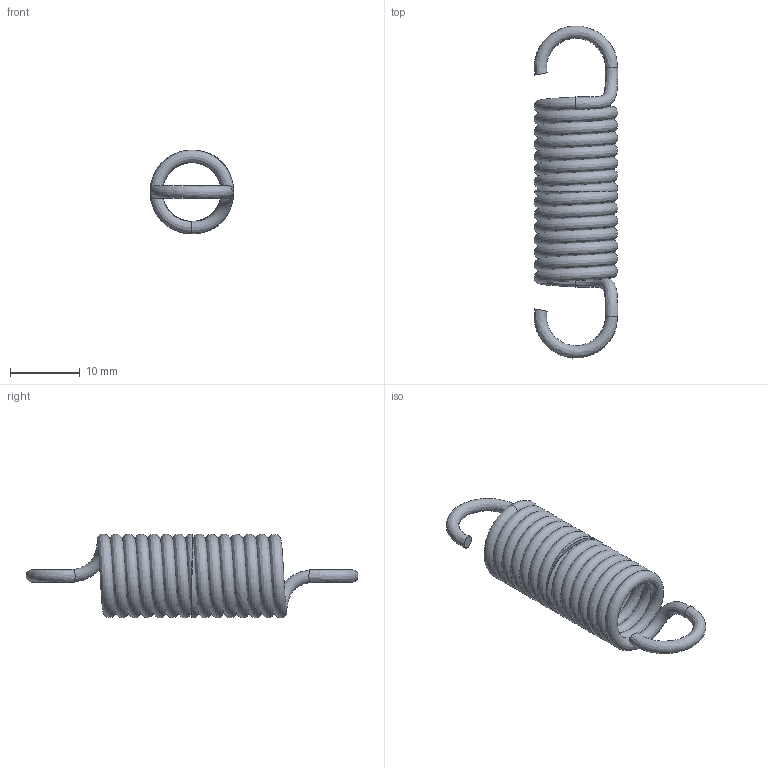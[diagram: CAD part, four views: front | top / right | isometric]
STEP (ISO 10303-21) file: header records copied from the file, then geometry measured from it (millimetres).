
FILE_DESCRIPTION(/* description */ ('117 | 5 23 | 0'),/* implementation_level */ '2;1');
FILE_NAME(/* name */ 'T21510.step',/* time_stamp */ '2026-10-05T10:17:36+02:00',/* author */ ('impex-ready.pl'),/* organization */ ('T21510'),/* preprocessor_version */ 'ST-DEVELOPER v20.1',/* originating_system */ 'Autodesk Inventor 2026',/* authorisation */ 'stal nierdzewna');
FILE_SCHEMA (('AUTOMOTIVE_DESIGN { 1 0 10303 214 3 1 1 }'));
Length unit declared in the file: millimetre
Products named in the file (1): T21510
Bounding box: 11.98 x 47.55 x 12 mm (x, y, z)
Volume: 1292.2 mm3; surface area: 2889.4 mm2
Topology: 1 solids, 1 shells, 10 faces, 32 edges, 20 vertices
Faces by surface type: bspline 6, plane 4
Entity records: 3650 total; most frequent: CARTESIAN_POINT 3362, ORIENTED_EDGE 64, DIRECTION 34, EDGE_CURVE 32, B_SPLINE_CURVE_WITH_KNOTS 20, VERTEX_POINT 20, AXIS2_PLACEMENT_3D 17, CIRCLE 12
